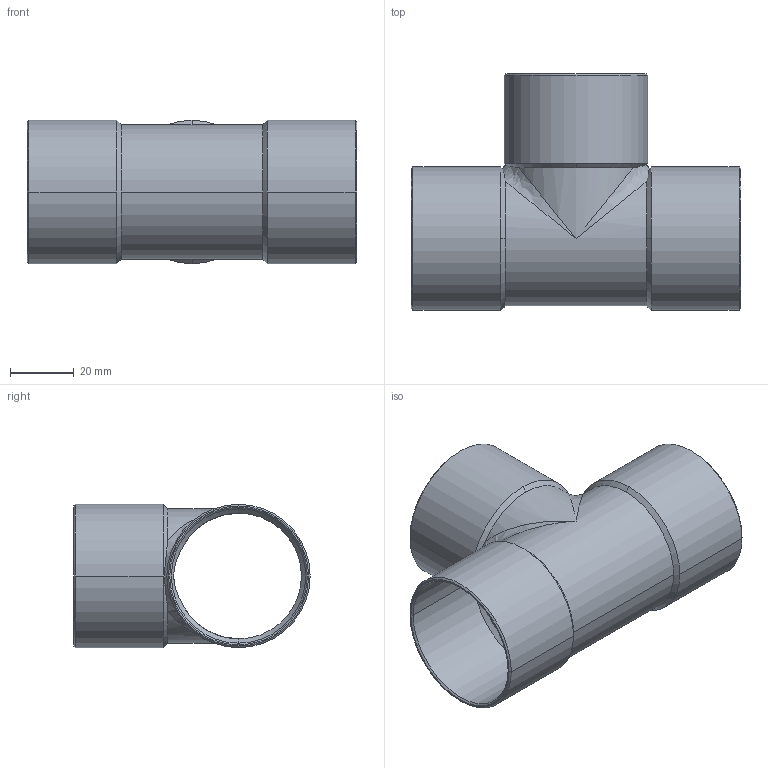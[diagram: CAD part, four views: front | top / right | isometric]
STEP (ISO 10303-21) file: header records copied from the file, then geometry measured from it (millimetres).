
FILE_DESCRIPTION((''),'2;1');
FILE_NAME('P:\Bouwmaten\z-maattekeningen 3D\5000\5130\d\513042.stp','2005-10-19T08:46:22',('Kris'),(''),'Autodesk Inventor 8','Autodesk Inventor 8','');
FILE_SCHEMA(('AUTOMOTIVE_DESIGN { 1 0 10303 214 1 1 1 1 }'));
Length unit declared in the file: millimetre
Products named in the file (1): 513042
Bounding box: 103 x 73.9 x 44.8 mm (x, y, z)
Volume: 24058.2 mm3; surface area: 34841.3 mm2
Topology: 1 solids, 1 shells, 51 faces, 142 edges, 84 vertices
Faces by surface type: cone 24, cylinder 20, bspline 4, plane 3
Entity records: 2139 total; most frequent: CARTESIAN_POINT 798, DIRECTION 310, ORIENTED_EDGE 268, AXIS2_PLACEMENT_3D 136, EDGE_CURVE 134, VERTEX_POINT 84, CIRCLE 72, EDGE_LOOP 54
